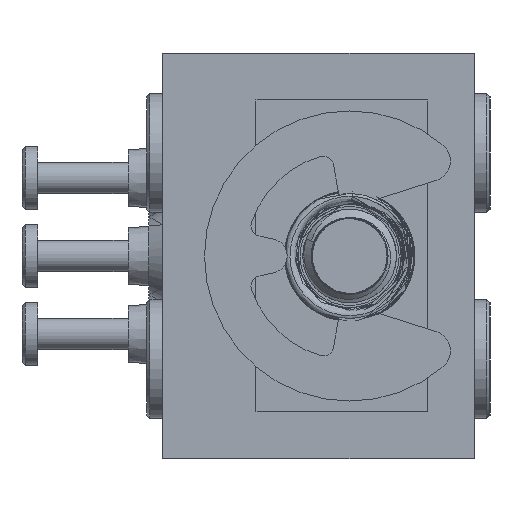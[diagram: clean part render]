
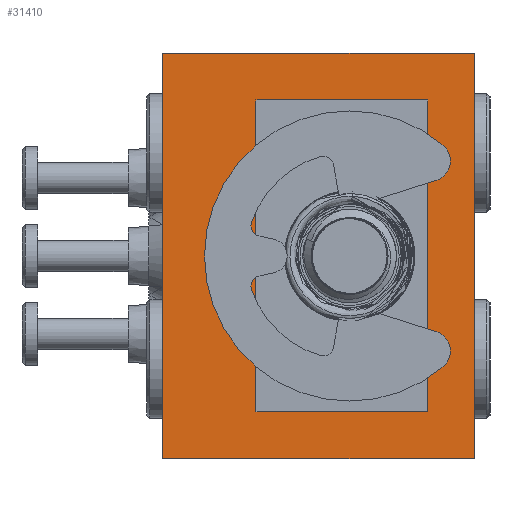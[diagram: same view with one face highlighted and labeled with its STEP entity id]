
A CAD part, left-side view. The second image highlights one B-rep face of the part: STEP entity #31410.
In plain terms, the highlighted planar face has unit normal (-1, 0, 0).
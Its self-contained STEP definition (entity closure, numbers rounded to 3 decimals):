
#161 = CARTESIAN_POINT ( 'NONE',  ( -63.5, 2., -5. ) ) ;
#247 = VECTOR ( 'NONE', #2065, 1000. ) ;
#779 = CARTESIAN_POINT ( 'NONE',  ( -63.5, 5., 6.5 ) ) ;
#2065 = DIRECTION ( 'NONE',  ( 0., -1., 0. ) ) ;
#2077 = EDGE_CURVE ( 'NONE', #16372, #24453, #39723, .T. ) ;
#2417 = ORIENTED_EDGE ( 'NONE', *, *, #41805, .T. ) ;
#2448 = CARTESIAN_POINT ( 'NONE',  ( -63.5, 5., -6.5 ) ) ;
#2924 = EDGE_CURVE ( 'NONE', #15286, #61126, #24249, .T. ) ;
#4571 = VECTOR ( 'NONE', #44682, 1000. ) ;
#6013 = AXIS2_PLACEMENT_3D ( 'NONE', #17426, #55793, #22942 ) ;
#6165 = CARTESIAN_POINT ( 'NONE',  ( -63.5, -3.5, -5. ) ) ;
#6259 = LINE ( 'NONE', #779, #4571 ) ;
#6614 = CARTESIAN_POINT ( 'NONE',  ( -63.5, -3.5, 5. ) ) ;
#7587 = ORIENTED_EDGE ( 'NONE', *, *, #2077, .F. ) ;
#10532 = VECTOR ( 'NONE', #24873, 1000. ) ;
#10867 = EDGE_CURVE ( 'NONE', #59096, #24453, #22566, .T. ) ;
#12631 = CARTESIAN_POINT ( 'NONE',  ( -63.5, 5., -6.5 ) ) ;
#14512 = ORIENTED_EDGE ( 'NONE', *, *, #59064, .F. ) ;
#15286 = VERTEX_POINT ( 'NONE', #23277 ) ;
#15421 = ORIENTED_EDGE ( 'NONE', *, *, #24643, .F. ) ;
#16006 = VERTEX_POINT ( 'NONE', #64735 ) ;
#16372 = VERTEX_POINT ( 'NONE', #38562 ) ;
#17426 = CARTESIAN_POINT ( 'NONE',  ( -63.5, 5., 6.5 ) ) ;
#18148 = DIRECTION ( 'NONE',  ( 0., 0., -1. ) ) ;
#20418 = VECTOR ( 'NONE', #27509, 1000. ) ;
#20573 = EDGE_CURVE ( 'NONE', #61126, #16006, #64177, .T. ) ;
#22566 = LINE ( 'NONE', #12631, #247 ) ;
#22942 = DIRECTION ( 'NONE',  ( 0., 0., -1. ) ) ;
#23277 = CARTESIAN_POINT ( 'NONE',  ( -63.5, 2., 5. ) ) ;
#24249 = LINE ( 'NONE', #43955, #37151 ) ;
#24453 = VERTEX_POINT ( 'NONE', #60162 ) ;
#24643 = EDGE_CURVE ( 'NONE', #16006, #31488, #49181, .T. ) ;
#24873 = DIRECTION ( 'NONE',  ( 0., 0., -1. ) ) ;
#26691 = CARTESIAN_POINT ( 'NONE',  ( -63.5, 2., -5. ) ) ;
#27509 = DIRECTION ( 'NONE',  ( 0., -1., 0. ) ) ;
#31410 = ADVANCED_FACE ( 'NONE', ( #35059, #64247 ), #61073, .F. ) ;
#31488 = VERTEX_POINT ( 'NONE', #6614 ) ;
#32208 = LINE ( 'NONE', #60268, #45042 ) ;
#33098 = CARTESIAN_POINT ( 'NONE',  ( -63.5, 5., 6.5 ) ) ;
#33734 = VECTOR ( 'NONE', #18148, 1000. ) ;
#34630 = VECTOR ( 'NONE', #49568, 1000. ) ;
#35059 = FACE_BOUND ( 'NONE', #55492, .T. ) ;
#37151 = VECTOR ( 'NONE', #49216, 1000. ) ;
#38562 = CARTESIAN_POINT ( 'NONE',  ( -63.5, -5., 6.5 ) ) ;
#39197 = EDGE_LOOP ( 'NONE', ( #54781, #7587, #47928, #2417 ) ) ;
#39723 = LINE ( 'NONE', #41183, #10532 ) ;
#39978 = CARTESIAN_POINT ( 'NONE',  ( -63.5, 5., 6.5 ) ) ;
#40228 = VERTEX_POINT ( 'NONE', #33098 ) ;
#41183 = CARTESIAN_POINT ( 'NONE',  ( -63.5, -5., 6.5 ) ) ;
#41805 = EDGE_CURVE ( 'NONE', #40228, #59096, #48317, .T. ) ;
#43955 = CARTESIAN_POINT ( 'NONE',  ( -63.5, 2., -5. ) ) ;
#44682 = DIRECTION ( 'NONE',  ( 0., -1., 0. ) ) ;
#45042 = VECTOR ( 'NONE', #67923, 1000. ) ;
#47928 = ORIENTED_EDGE ( 'NONE', *, *, #69219, .F. ) ;
#48317 = LINE ( 'NONE', #39978, #33734 ) ;
#48802 = ORIENTED_EDGE ( 'NONE', *, *, #2924, .F. ) ;
#49181 = LINE ( 'NONE', #6165, #34630 ) ;
#49216 = DIRECTION ( 'NONE',  ( 0., 0., -1. ) ) ;
#49568 = DIRECTION ( 'NONE',  ( 0., 0., 1. ) ) ;
#54781 = ORIENTED_EDGE ( 'NONE', *, *, #10867, .T. ) ;
#55492 = EDGE_LOOP ( 'NONE', ( #15421, #66837, #48802, #14512 ) ) ;
#55793 = DIRECTION ( 'NONE',  ( 1., 0., 0. ) ) ;
#59064 = EDGE_CURVE ( 'NONE', #31488, #15286, #32208, .T. ) ;
#59096 = VERTEX_POINT ( 'NONE', #2448 ) ;
#60162 = CARTESIAN_POINT ( 'NONE',  ( -63.5, -5., -6.5 ) ) ;
#60268 = CARTESIAN_POINT ( 'NONE',  ( -63.5, 2., 5. ) ) ;
#61073 = PLANE ( 'NONE',  #6013 ) ;
#61126 = VERTEX_POINT ( 'NONE', #26691 ) ;
#64177 = LINE ( 'NONE', #161, #20418 ) ;
#64247 = FACE_OUTER_BOUND ( 'NONE', #39197, .T. ) ;
#64735 = CARTESIAN_POINT ( 'NONE',  ( -63.5, -3.5, -5. ) ) ;
#66837 = ORIENTED_EDGE ( 'NONE', *, *, #20573, .F. ) ;
#67923 = DIRECTION ( 'NONE',  ( 0., 1., 0. ) ) ;
#69219 = EDGE_CURVE ( 'NONE', #40228, #16372, #6259, .T. ) ;
